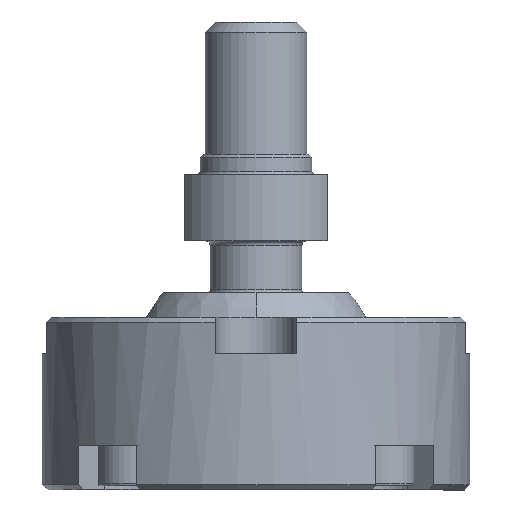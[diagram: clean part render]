
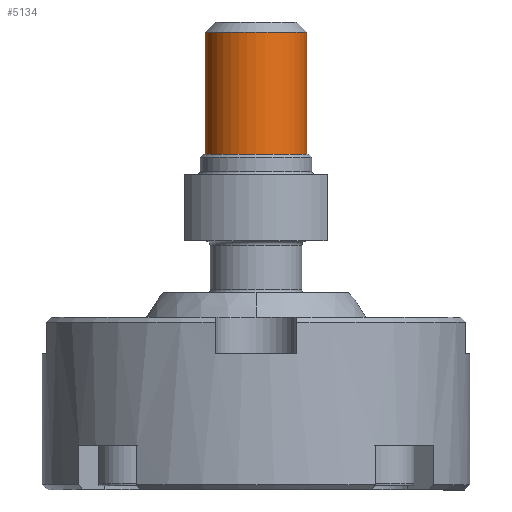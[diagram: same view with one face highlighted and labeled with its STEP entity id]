
A CAD part, front view. The second image highlights one B-rep face of the part: STEP entity #5134.
In plain terms, the highlighted cylindrical face has radius 5 mm (diameter 10 mm), a partial arc.
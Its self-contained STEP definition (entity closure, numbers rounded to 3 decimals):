
#205 = EDGE_CURVE ( 'NONE', #3820, #2499, #3803, .T. ) ;
#247 = ORIENTED_EDGE ( 'NONE', *, *, #6477, .T. ) ;
#298 = ORIENTED_EDGE ( 'NONE', *, *, #1979, .F. ) ;
#1666 = FACE_OUTER_BOUND ( 'NONE', #4151, .T. ) ;
#1979 = EDGE_CURVE ( 'NONE', #5374, #5189, #4847, .T. ) ;
#2135 = CARTESIAN_POINT ( 'NONE',  ( 0., 0., -15. ) ) ;
#2146 = DIRECTION ( 'NONE',  ( 0., 0., -1. ) ) ;
#2485 = DIRECTION ( 'NONE',  ( -1., 0., 0. ) ) ;
#2499 = VERTEX_POINT ( 'NONE', #4091 ) ;
#2530 = VECTOR ( 'NONE', #6301, 1000. ) ;
#2654 = CARTESIAN_POINT ( 'NONE',  ( 0., 0., 22. ) ) ;
#2698 = CARTESIAN_POINT ( 'NONE',  ( 5., 0., 34. ) ) ;
#2865 = CIRCLE ( 'NONE', #4357, 5. ) ;
#3060 = DIRECTION ( 'NONE',  ( 0., 0., -1. ) ) ;
#3202 = DIRECTION ( 'NONE',  ( -1., 0., 0. ) ) ;
#3803 = LINE ( 'NONE', #4204, #2530 ) ;
#3820 = VERTEX_POINT ( 'NONE', #3949 ) ;
#3949 = CARTESIAN_POINT ( 'NONE',  ( -5., 0., 34. ) ) ;
#4091 = CARTESIAN_POINT ( 'NONE',  ( -5., 0., 22. ) ) ;
#4104 = CYLINDRICAL_SURFACE ( 'NONE', #5193, 5. ) ;
#4151 = EDGE_LOOP ( 'NONE', ( #298, #247, #5339, #6056 ) ) ;
#4204 = CARTESIAN_POINT ( 'NONE',  ( -5., 0., -15. ) ) ;
#4357 = AXIS2_PLACEMENT_3D ( 'NONE', #5005, #3060, #2485 ) ;
#4777 = CIRCLE ( 'NONE', #5420, 5. ) ;
#4847 = LINE ( 'NONE', #6317, #5492 ) ;
#5005 = CARTESIAN_POINT ( 'NONE',  ( 0., 0., 34. ) ) ;
#5134 = ADVANCED_FACE ( 'NONE', ( #1666 ), #4104, .T. ) ;
#5189 = VERTEX_POINT ( 'NONE', #5649 ) ;
#5193 = AXIS2_PLACEMENT_3D ( 'NONE', #2135, #6232, #3202 ) ;
#5339 = ORIENTED_EDGE ( 'NONE', *, *, #205, .T. ) ;
#5374 = VERTEX_POINT ( 'NONE', #2698 ) ;
#5420 = AXIS2_PLACEMENT_3D ( 'NONE', #2654, #2146, #6216 ) ;
#5492 = VECTOR ( 'NONE', #6286, 1000. ) ;
#5649 = CARTESIAN_POINT ( 'NONE',  ( 5., 0., 22. ) ) ;
#5808 = EDGE_CURVE ( 'NONE', #5189, #2499, #4777, .T. ) ;
#6056 = ORIENTED_EDGE ( 'NONE', *, *, #5808, .F. ) ;
#6216 = DIRECTION ( 'NONE',  ( -1., 0., 0. ) ) ;
#6232 = DIRECTION ( 'NONE',  ( 0., 0., -1. ) ) ;
#6286 = DIRECTION ( 'NONE',  ( 0., 0., -1. ) ) ;
#6301 = DIRECTION ( 'NONE',  ( 0., 0., -1. ) ) ;
#6317 = CARTESIAN_POINT ( 'NONE',  ( 5., 0., -15. ) ) ;
#6477 = EDGE_CURVE ( 'NONE', #5374, #3820, #2865, .T. ) ;
